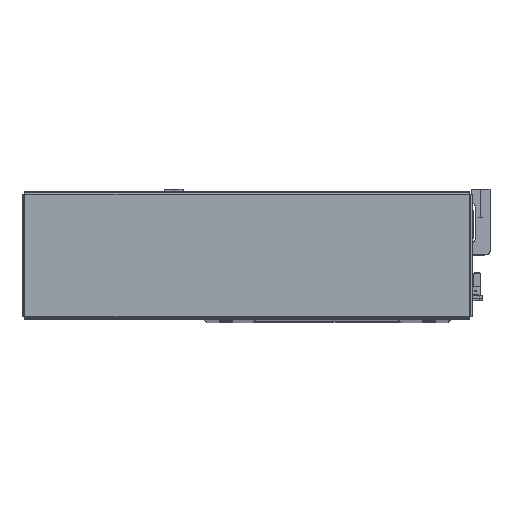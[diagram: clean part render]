
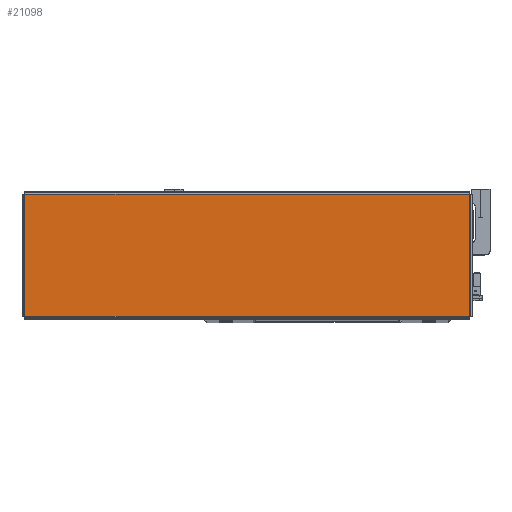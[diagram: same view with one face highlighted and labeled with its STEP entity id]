
A CAD part, top view. The second image highlights one B-rep face of the part: STEP entity #21098.
In plain terms, the highlighted planar face has unit normal (0, 0, 1) as drawn and (0, -1, 0) by its records, which use the part's own axes.
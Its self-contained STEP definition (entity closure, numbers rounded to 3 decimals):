
#792 = FACE_OUTER_BOUND ( 'NONE', #53018, .T. ) ;
#2154 = VECTOR ( 'NONE', #47820, 1000. ) ;
#2176 = LINE ( 'NONE', #47807, #2154 ) ;
#2211 = LINE ( 'NONE', #48071, #2232 ) ;
#2221 = LINE ( 'NONE', #47992, #2246 ) ;
#2232 = VECTOR ( 'NONE', #48067, 1000. ) ;
#2233 = VECTOR ( 'NONE', #47979, 1000. ) ;
#2246 = VECTOR ( 'NONE', #48001, 1000. ) ;
#2252 = LINE ( 'NONE', #47976, #2233 ) ;
#16687 = PLANE ( 'NONE',  #34719 ) ;
#16689 = DIRECTION ( 'NONE',  ( 0., 1., 0. ) ) ;
#16704 = CARTESIAN_POINT ( 'NONE',  ( 0., -1.2, 0. ) ) ;
#16726 = DIRECTION ( 'NONE',  ( 0., 0., 1. ) ) ;
#21098 = ADVANCED_FACE ( 'NONE', ( #792 ), #16687, .F. ) ;
#25534 = EDGE_CURVE ( 'NONE', #46600, #46571, #2176, .T. ) ;
#25593 = EDGE_CURVE ( 'NONE', #46582, #46600, #2252, .T. ) ;
#25598 = EDGE_CURVE ( 'NONE', #46571, #46580, #2221, .T. ) ;
#25614 = EDGE_CURVE ( 'NONE', #46580, #46582, #2211, .T. ) ;
#34719 = AXIS2_PLACEMENT_3D ( 'NONE', #16704, #16689, #16726 ) ;
#37603 = ORIENTED_EDGE ( 'NONE', *, *, #25534, .T. ) ;
#37611 = ORIENTED_EDGE ( 'NONE', *, *, #25614, .T. ) ;
#37723 = ORIENTED_EDGE ( 'NONE', *, *, #25593, .T. ) ;
#37749 = ORIENTED_EDGE ( 'NONE', *, *, #25598, .T. ) ;
#46571 = VERTEX_POINT ( 'NONE', #55551 ) ;
#46580 = VERTEX_POINT ( 'NONE', #55536 ) ;
#46582 = VERTEX_POINT ( 'NONE', #55565 ) ;
#46600 = VERTEX_POINT ( 'NONE', #55547 ) ;
#47807 = CARTESIAN_POINT ( 'NONE',  ( -154.013, -1.2, 42.293 ) ) ;
#47820 = DIRECTION ( 'NONE',  ( 0., 0., -1. ) ) ;
#47976 = CARTESIAN_POINT ( 'NONE',  ( 154.043, -1.2, 42.263 ) ) ;
#47979 = DIRECTION ( 'NONE',  ( -1., 0., 0. ) ) ;
#47992 = CARTESIAN_POINT ( 'NONE',  ( -154.043, -1.2, -42.263 ) ) ;
#48001 = DIRECTION ( 'NONE',  ( 1., 0., 0. ) ) ;
#48067 = DIRECTION ( 'NONE',  ( 0., 0., 1. ) ) ;
#48071 = CARTESIAN_POINT ( 'NONE',  ( 154.013, -1.2, -42.293 ) ) ;
#53018 = EDGE_LOOP ( 'NONE', ( #37611, #37723, #37603, #37749 ) ) ;
#55536 = CARTESIAN_POINT ( 'NONE',  ( 154.013, -1.2, -42.263 ) ) ;
#55547 = CARTESIAN_POINT ( 'NONE',  ( -154.013, -1.2, 42.263 ) ) ;
#55551 = CARTESIAN_POINT ( 'NONE',  ( -154.013, -1.2, -42.263 ) ) ;
#55565 = CARTESIAN_POINT ( 'NONE',  ( 154.013, -1.2, 42.263 ) ) ;
